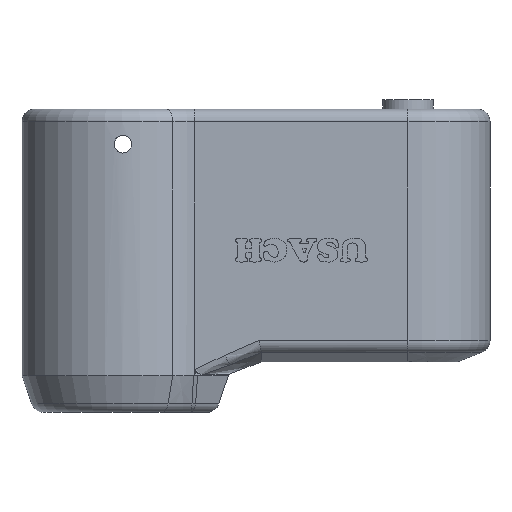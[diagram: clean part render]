
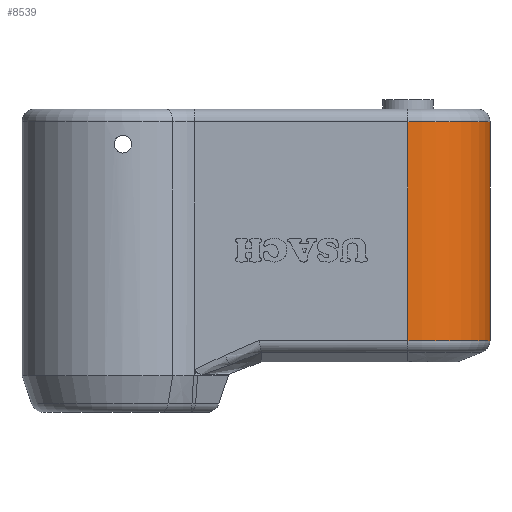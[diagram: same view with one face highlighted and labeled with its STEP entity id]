
A CAD part, front view. The second image highlights one B-rep face of the part: STEP entity #8539.
In plain terms, the highlighted cylindrical face has radius 65 mm (diameter 130 mm), a partial arc.
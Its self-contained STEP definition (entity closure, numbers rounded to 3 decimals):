
#282 = AXIS2_PLACEMENT_3D ( 'NONE', #13986, #21036, #4777 ) ;
#1901 = DIRECTION ( 'NONE',  ( 0., 0., -1. ) ) ;
#2729 = EDGE_CURVE ( 'NONE', #5595, #4491, #18565, .T. ) ;
#3136 = EDGE_CURVE ( 'NONE', #4491, #8966, #4453, .T. ) ;
#3202 = DIRECTION ( 'NONE',  ( 1., 0., 0. ) ) ;
#3621 = VERTEX_POINT ( 'NONE', #16285 ) ;
#3826 = EDGE_LOOP ( 'NONE', ( #6689, #16479, #10394, #23162, #10098 ) ) ;
#4240 = DIRECTION ( 'NONE',  ( 0., 0., -1. ) ) ;
#4453 = CIRCLE ( 'NONE', #17809, 65. ) ;
#4491 = VERTEX_POINT ( 'NONE', #15679 ) ;
#4777 = DIRECTION ( 'NONE',  ( -1., 0., 0. ) ) ;
#5595 = VERTEX_POINT ( 'NONE', #8032 ) ;
#6150 = CARTESIAN_POINT ( 'NONE',  ( 225.924, 0., 240.3 ) ) ;
#6653 = EDGE_CURVE ( 'NONE', #3621, #23415, #18600, .T. ) ;
#6689 = ORIENTED_EDGE ( 'NONE', *, *, #18123, .T. ) ;
#6760 = VECTOR ( 'NONE', #1901, 1000. ) ;
#6825 = EDGE_CURVE ( 'NONE', #5595, #23415, #14460, .T. ) ;
#7506 = CARTESIAN_POINT ( 'NONE',  ( 225.924, -65., 230.3 ) ) ;
#7548 = CARTESIAN_POINT ( 'NONE',  ( 225.924, 65., 56.873 ) ) ;
#7821 = FACE_OUTER_BOUND ( 'NONE', #3826, .T. ) ;
#8032 = CARTESIAN_POINT ( 'NONE',  ( 225.924, 65., 230.3 ) ) ;
#8539 = ADVANCED_FACE ( 'NONE', ( #7821 ), #16908, .T. ) ;
#8966 = VERTEX_POINT ( 'NONE', #7506 ) ;
#10098 = ORIENTED_EDGE ( 'NONE', *, *, #3136, .T. ) ;
#10394 = ORIENTED_EDGE ( 'NONE', *, *, #6825, .F. ) ;
#12654 = CARTESIAN_POINT ( 'NONE',  ( 225.924, 65., 240.3 ) ) ;
#13082 = LINE ( 'NONE', #14653, #17499 ) ;
#13335 = DIRECTION ( 'NONE',  ( 0., 0., -1. ) ) ;
#13986 = CARTESIAN_POINT ( 'NONE',  ( 225.924, 0., 56.873 ) ) ;
#14062 = DIRECTION ( 'NONE',  ( 0., 0., -1. ) ) ;
#14460 = LINE ( 'NONE', #12654, #6760 ) ;
#14653 = CARTESIAN_POINT ( 'NONE',  ( 225.924, -65., 240.3 ) ) ;
#15679 = CARTESIAN_POINT ( 'NONE',  ( 290.924, 0., 230.3 ) ) ;
#16285 = CARTESIAN_POINT ( 'NONE',  ( 225.924, -65., 56.873 ) ) ;
#16479 = ORIENTED_EDGE ( 'NONE', *, *, #6653, .T. ) ;
#16908 = CYLINDRICAL_SURFACE ( 'NONE', #19375, 65. ) ;
#17499 = VECTOR ( 'NONE', #4240, 1000. ) ;
#17809 = AXIS2_PLACEMENT_3D ( 'NONE', #17997, #14062, #21342 ) ;
#17997 = CARTESIAN_POINT ( 'NONE',  ( 225.924, 0., 230.3 ) ) ;
#18123 = EDGE_CURVE ( 'NONE', #8966, #3621, #13082, .T. ) ;
#18565 = CIRCLE ( 'NONE', #20867, 65. ) ;
#18580 = DIRECTION ( 'NONE',  ( -1., 0., 0. ) ) ;
#18600 = CIRCLE ( 'NONE', #282, 65. ) ;
#19375 = AXIS2_PLACEMENT_3D ( 'NONE', #6150, #13335, #18580 ) ;
#19572 = DIRECTION ( 'NONE',  ( 0., 0., -1. ) ) ;
#20867 = AXIS2_PLACEMENT_3D ( 'NONE', #23281, #19572, #3202 ) ;
#21036 = DIRECTION ( 'NONE',  ( 0., 0., 1. ) ) ;
#21342 = DIRECTION ( 'NONE',  ( 1., 0., 0. ) ) ;
#23162 = ORIENTED_EDGE ( 'NONE', *, *, #2729, .T. ) ;
#23281 = CARTESIAN_POINT ( 'NONE',  ( 225.924, 0., 230.3 ) ) ;
#23415 = VERTEX_POINT ( 'NONE', #7548 ) ;
